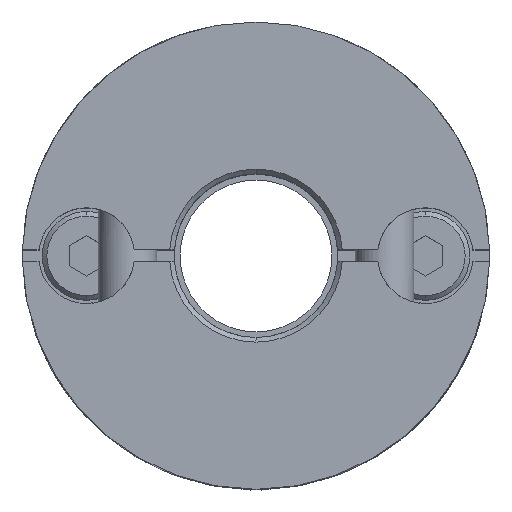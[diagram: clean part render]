
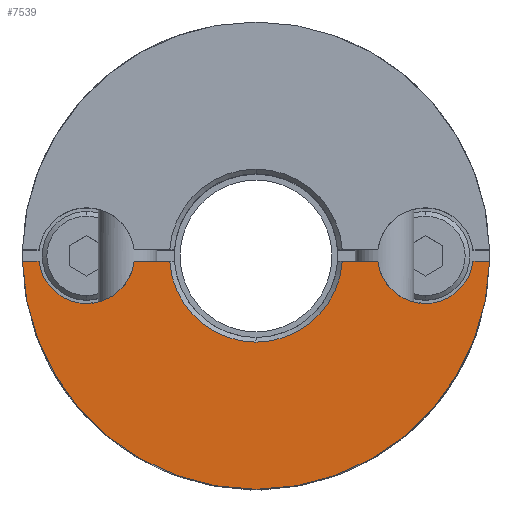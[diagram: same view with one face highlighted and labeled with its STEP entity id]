
A CAD part, top view. The second image highlights one B-rep face of the part: STEP entity #7539.
In plain terms, the highlighted planar face has unit normal (0, 0, 1).
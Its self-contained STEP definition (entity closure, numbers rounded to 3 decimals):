
#809=CARTESIAN_POINT('',(0.,-10.,9.4));
#810=VERTEX_POINT('',#809);
#817=CARTESIAN_POINT('',(-9.997,-0.25,9.4));
#818=VERTEX_POINT('',#817);
#819=CARTESIAN_POINT('',(0.,0.,9.4));
#820=DIRECTION('',(0.0,0.0,-1.0));
#821=DIRECTION('',(0.0,1.0,0.0));
#822=AXIS2_PLACEMENT_3D('',#819,#820,#821);
#823=CIRCLE('',#822,10.0);
#824=EDGE_CURVE('',#810,#818,#823,.T.);
#1024=CARTESIAN_POINT('',(0.,-3.7,9.4));
#1025=VERTEX_POINT('',#1024);
#1033=CARTESIAN_POINT('',(-3.692,-0.25,9.4));
#1034=VERTEX_POINT('',#1033);
#1048=CARTESIAN_POINT('',(0.,0.,9.4));
#1049=DIRECTION('',(0.0,0.0,1.0));
#1050=DIRECTION('',(0.0,-1.0,0.0));
#1051=AXIS2_PLACEMENT_3D('',#1048,#1049,#1050);
#1052=CIRCLE('',#1051,3.7);
#1053=EDGE_CURVE('',#1034,#1025,#1052,.T.);
#1345=CARTESIAN_POINT('',(-7.25,-2.05,9.4));
#1346=VERTEX_POINT('',#1345);
#1362=CARTESIAN_POINT('',(-9.285,-0.25,9.4));
#1363=VERTEX_POINT('',#1362);
#1370=CARTESIAN_POINT('',(-7.25,0.,9.4));
#1371=DIRECTION('',(0.0,0.0,-1.0));
#1372=DIRECTION('',(0.0,1.0,0.0));
#1373=AXIS2_PLACEMENT_3D('',#1370,#1371,#1372);
#1374=CIRCLE('',#1373,2.05);
#1375=EDGE_CURVE('',#1346,#1363,#1374,.T.);
#1693=CARTESIAN_POINT('',(7.25,-2.05,9.4));
#1694=VERTEX_POINT('',#1693);
#1772=CARTESIAN_POINT('',(5.215,-0.25,9.4));
#1773=VERTEX_POINT('',#1772);
#1780=CARTESIAN_POINT('',(7.25,0.,9.4));
#1781=DIRECTION('',(0.0,0.0,-1.0));
#1782=DIRECTION('',(0.0,1.0,0.0));
#1783=AXIS2_PLACEMENT_3D('',#1780,#1781,#1782);
#1784=CIRCLE('',#1783,2.05);
#1785=EDGE_CURVE('',#1694,#1773,#1784,.T.);
#5992=CARTESIAN_POINT('',(9.285,-0.25,9.4));
#5993=VERTEX_POINT('',#5992);
#5994=CARTESIAN_POINT('',(7.25,0.,9.4));
#5995=DIRECTION('',(0.0,0.0,-1.0));
#5996=DIRECTION('',(0.0,1.0,0.0));
#5997=AXIS2_PLACEMENT_3D('',#5994,#5995,#5996);
#5998=CIRCLE('',#5997,2.05);
#5999=EDGE_CURVE('',#5993,#1694,#5998,.T.);
#6444=CARTESIAN_POINT('',(-5.215,-0.25,9.4));
#6445=VERTEX_POINT('',#6444);
#6446=CARTESIAN_POINT('',(-7.25,0.,9.4));
#6447=DIRECTION('',(0.0,0.0,-1.0));
#6448=DIRECTION('',(0.0,1.0,0.0));
#6449=AXIS2_PLACEMENT_3D('',#6446,#6447,#6448);
#6450=CIRCLE('',#6449,2.05);
#6451=EDGE_CURVE('',#6445,#1346,#6450,.T.);
#6574=CARTESIAN_POINT('',(-3.692,-0.25,9.4));
#6575=DIRECTION('',(-1.0,0.0,0.0));
#6576=VECTOR('',#6575,1.524);
#6577=LINE('',#6574,#6576);
#6578=EDGE_CURVE('',#1034,#6445,#6577,.T.);
#6642=CARTESIAN_POINT('',(3.692,-0.25,9.4));
#6643=VERTEX_POINT('',#6642);
#6657=CARTESIAN_POINT('',(5.215,-0.25,9.4));
#6658=DIRECTION('',(-1.0,0.0,0.0));
#6659=VECTOR('',#6658,1.524);
#6660=LINE('',#6657,#6659);
#6661=EDGE_CURVE('',#1773,#6643,#6660,.T.);
#7317=CARTESIAN_POINT('',(9.997,-0.25,9.4));
#7318=VERTEX_POINT('',#7317);
#7319=CARTESIAN_POINT('',(9.997,-0.25,9.4));
#7320=DIRECTION('',(-1.0,0.0,0.0));
#7321=VECTOR('',#7320,0.712);
#7322=LINE('',#7319,#7321);
#7323=EDGE_CURVE('',#7318,#5993,#7322,.T.);
#7423=CARTESIAN_POINT('',(-9.285,-0.25,9.4));
#7424=DIRECTION('',(-1.0,0.0,0.0));
#7425=VECTOR('',#7424,0.712);
#7426=LINE('',#7423,#7425);
#7427=EDGE_CURVE('',#1363,#818,#7426,.T.);
#7508=CARTESIAN_POINT('',(0.,0.909,9.4));
#7509=DIRECTION('',(0.0,0.0,1.0));
#7510=DIRECTION('',(0.0,1.0,0.0));
#7511=AXIS2_PLACEMENT_3D('',#7508,#7509,#7510);
#7512=PLANE('',#7511);
#7513=ORIENTED_EDGE('',*,*,#5999,.T.);
#7514=ORIENTED_EDGE('',*,*,#1785,.T.);
#7515=ORIENTED_EDGE('',*,*,#6661,.T.);
#7516=CARTESIAN_POINT('',(0.,0.,9.4));
#7517=DIRECTION('',(0.0,0.0,1.0));
#7518=DIRECTION('',(0.0,-1.0,0.0));
#7519=AXIS2_PLACEMENT_3D('',#7516,#7517,#7518);
#7520=CIRCLE('',#7519,3.7);
#7521=EDGE_CURVE('',#1025,#6643,#7520,.T.);
#7522=ORIENTED_EDGE('',*,*,#7521,.F.);
#7523=ORIENTED_EDGE('',*,*,#1053,.F.);
#7524=ORIENTED_EDGE('',*,*,#6578,.T.);
#7525=ORIENTED_EDGE('',*,*,#6451,.T.);
#7526=ORIENTED_EDGE('',*,*,#1375,.T.);
#7527=ORIENTED_EDGE('',*,*,#7427,.T.);
#7528=ORIENTED_EDGE('',*,*,#824,.F.);
#7529=CARTESIAN_POINT('',(0.,0.,9.4));
#7530=DIRECTION('',(0.0,0.0,-1.0));
#7531=DIRECTION('',(0.0,1.0,0.0));
#7532=AXIS2_PLACEMENT_3D('',#7529,#7530,#7531);
#7533=CIRCLE('',#7532,10.0);
#7534=EDGE_CURVE('',#7318,#810,#7533,.T.);
#7535=ORIENTED_EDGE('',*,*,#7534,.F.);
#7536=ORIENTED_EDGE('',*,*,#7323,.T.);
#7537=EDGE_LOOP('',(#7513,#7514,#7515,#7522,#7523,#7524,#7525,#7526,#7527,#7528,#7535,#7536));
#7538=FACE_OUTER_BOUND('',#7537,.T.);
#7539=ADVANCED_FACE('',(#7538),#7512,.T.);
